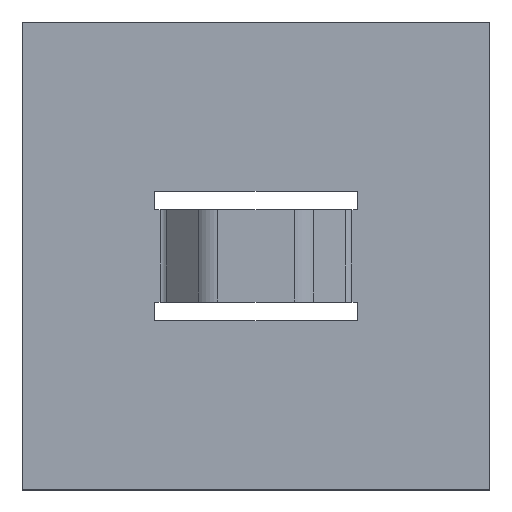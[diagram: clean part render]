
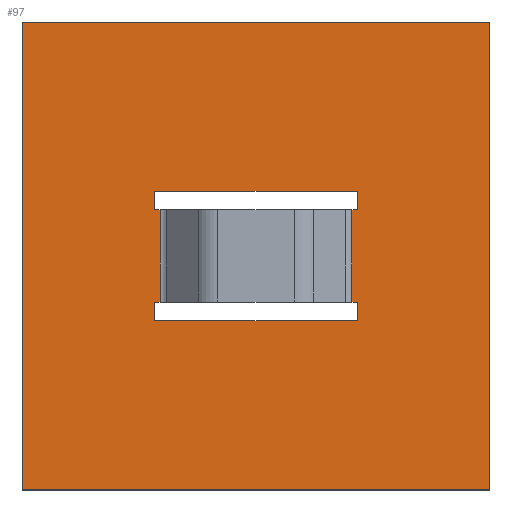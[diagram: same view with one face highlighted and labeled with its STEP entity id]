
A CAD part, top view. The second image highlights one B-rep face of the part: STEP entity #97.
In plain terms, the highlighted planar face has unit normal (0, 0, 1).
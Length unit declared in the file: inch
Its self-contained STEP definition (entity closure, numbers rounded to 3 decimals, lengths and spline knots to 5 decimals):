
#97=ADVANCED_FACE('',(#148,#149),#150,.T.);
#148=FACE_OUTER_BOUND('',#206,.T.);
#149=FACE_BOUND('',#207,.T.);
#150=PLANE('',#208);
#206=EDGE_LOOP('',(#406,#407,#408,#409));
#207=EDGE_LOOP('',(#410,#411,#412,#413,#414,#415,#416,#417,#418,#419,#420,#421));
#208=AXIS2_PLACEMENT_3D('',#422,#423,#424);
#406=ORIENTED_EDGE('',*,*,#546,.F.);
#407=ORIENTED_EDGE('',*,*,#547,.T.);
#408=ORIENTED_EDGE('',*,*,#548,.T.);
#409=ORIENTED_EDGE('',*,*,#483,.F.);
#410=ORIENTED_EDGE('',*,*,#536,.T.);
#411=ORIENTED_EDGE('',*,*,#476,.T.);
#412=ORIENTED_EDGE('',*,*,#475,.F.);
#413=ORIENTED_EDGE('',*,*,#480,.T.);
#414=ORIENTED_EDGE('',*,*,#537,.T.);
#415=ORIENTED_EDGE('',*,*,#530,.T.);
#416=ORIENTED_EDGE('',*,*,#497,.T.);
#417=ORIENTED_EDGE('',*,*,#549,.F.);
#418=ORIENTED_EDGE('',*,*,#541,.T.);
#419=ORIENTED_EDGE('',*,*,#545,.F.);
#420=ORIENTED_EDGE('',*,*,#505,.T.);
#421=ORIENTED_EDGE('',*,*,#519,.F.);
#422=CARTESIAN_POINT('',(0.0,0.622,-0.122));
#423=DIRECTION('',(0.0,0.0,1.0));
#424=DIRECTION('',(1.0,0.0,0.0));
#475=EDGE_CURVE('',#561,#557,#563,.T.);
#476=EDGE_CURVE('',#564,#557,#565,.F.);
#480=EDGE_CURVE('',#561,#569,#572,.F.);
#483=EDGE_CURVE('',#574,#577,#578,.T.);
#497=EDGE_CURVE('',#605,#603,#606,.T.);
#505=EDGE_CURVE('',#583,#619,#621,.T.);
#519=EDGE_CURVE('',#641,#619,#643,.T.);
#530=EDGE_CURVE('',#659,#605,#660,.T.);
#536=EDGE_CURVE('',#641,#564,#668,.T.);
#537=EDGE_CURVE('',#569,#659,#669,.T.);
#541=EDGE_CURVE('',#675,#673,#676,.T.);
#545=EDGE_CURVE('',#583,#673,#681,.T.);
#546=EDGE_CURVE('',#682,#574,#683,.T.);
#547=EDGE_CURVE('',#682,#684,#685,.T.);
#548=EDGE_CURVE('',#684,#577,#686,.T.);
#549=EDGE_CURVE('',#675,#603,#687,.T.);
#557=VERTEX_POINT('',#697);
#561=VERTEX_POINT('',#703);
#563=LINE('',#706,#707);
#564=VERTEX_POINT('',#708);
#565=LINE('',#709,#710);
#569=VERTEX_POINT('',#716);
#572=LINE('',#720,#721);
#574=VERTEX_POINT('',#724);
#577=VERTEX_POINT('',#728);
#578=LINE('',#729,#730);
#583=VERTEX_POINT('',#737);
#603=VERTEX_POINT('',#763);
#605=VERTEX_POINT('',#766);
#606=LINE('',#767,#768);
#619=VERTEX_POINT('',#784);
#621=LINE('',#786,#787);
#641=VERTEX_POINT('',#816);
#643=LINE('',#818,#819);
#659=VERTEX_POINT('',#843);
#660=LINE('',#844,#845);
#668=LINE('',#856,#857);
#669=LINE('',#858,#859);
#673=VERTEX_POINT('',#865);
#675=VERTEX_POINT('',#868);
#676=LINE('',#869,#870);
#681=LINE('',#878,#879);
#682=VERTEX_POINT('',#880);
#683=LINE('',#881,#882);
#684=VERTEX_POINT('',#883);
#685=LINE('',#884,#885);
#686=LINE('',#886,#887);
#687=LINE('',#888,#889);
#697=CARTESIAN_POINT('',(0.43307,-0.352,-0.122));
#703=CARTESIAN_POINT('',(-0.43307,-0.352,-0.122));
#706=CARTESIAN_POINT('',(0.0,-0.352,-0.122));
#707=VECTOR('',#907,1.0);
#708=CARTESIAN_POINT('',(0.43307,-0.272,-0.122));
#709=CARTESIAN_POINT('',(0.43307,0.175,-0.122));
#710=VECTOR('',#908,1.0);
#716=CARTESIAN_POINT('',(-0.43307,-0.272,-0.122));
#720=CARTESIAN_POINT('',(-0.43307,0.175,-0.122));
#721=VECTOR('',#912,1.0);
#724=CARTESIAN_POINT('',(1.0,-1.075,-0.122));
#728=CARTESIAN_POINT('',(-1.0,-1.075,-0.122));
#729=CARTESIAN_POINT('',(0.0,-1.075,-0.122));
#730=VECTOR('',#915,1.0);
#737=CARTESIAN_POINT('',(0.43307,0.122,-0.122));
#763=CARTESIAN_POINT('',(-0.43307,0.122,-0.122));
#766=CARTESIAN_POINT('',(-0.41007,0.122,-0.122));
#767=CARTESIAN_POINT('',(-1.0,0.122,-0.122));
#768=VECTOR('',#937,1.0);
#784=CARTESIAN_POINT('',(0.41007,0.122,-0.122));
#786=CARTESIAN_POINT('',(0.41007,0.122,-0.122));
#787=VECTOR('',#953,1.0);
#816=CARTESIAN_POINT('',(0.41007,-0.272,-0.122));
#818=CARTESIAN_POINT('',(0.41007,-0.272,-0.122));
#819=VECTOR('',#975,1.0);
#843=CARTESIAN_POINT('',(-0.41007,-0.272,-0.122));
#844=CARTESIAN_POINT('',(-0.41007,-0.272,-0.122));
#845=VECTOR('',#990,1.0);
#856=CARTESIAN_POINT('',(0.41007,-0.272,-0.122));
#857=VECTOR('',#1000,1.0);
#858=CARTESIAN_POINT('',(-1.0,-0.272,-0.122));
#859=VECTOR('',#1001,1.0);
#865=CARTESIAN_POINT('',(0.43307,0.202,-0.122));
#868=CARTESIAN_POINT('',(-0.43307,0.202,-0.122));
#869=CARTESIAN_POINT('',(0.0,0.202,-0.122));
#870=VECTOR('',#1005,1.0);
#878=CARTESIAN_POINT('',(0.43307,0.372,-0.122));
#879=VECTOR('',#1009,1.0);
#880=CARTESIAN_POINT('',(1.0,0.925,-0.122));
#881=CARTESIAN_POINT('',(1.0,-0.772,-0.122));
#882=VECTOR('',#1010,1.0);
#883=CARTESIAN_POINT('',(-1.0,0.925,-0.122));
#884=CARTESIAN_POINT('',(0.0,0.925,-0.122));
#885=VECTOR('',#1011,1.0);
#886=CARTESIAN_POINT('',(-1.0,0.622,-0.122));
#887=VECTOR('',#1012,1.0);
#888=CARTESIAN_POINT('',(-0.43307,0.372,-0.122));
#889=VECTOR('',#1013,1.0);
#907=DIRECTION('',(1.0,0.0,0.0));
#908=DIRECTION('',(0.0,1.0,0.0));
#912=DIRECTION('',(0.0,-1.0,0.0));
#915=DIRECTION('',(-1.0,0.0,0.0));
#937=DIRECTION('',(-1.0,0.0,0.0));
#953=DIRECTION('',(-1.0,0.0,0.0));
#975=DIRECTION('',(0.0,1.0,0.));
#990=DIRECTION('',(0.0,1.0,0.));
#1000=DIRECTION('',(1.0,0.0,0.0));
#1001=DIRECTION('',(1.0,0.0,0.0));
#1005=DIRECTION('',(1.0,0.0,0.0));
#1009=DIRECTION('',(0.0,1.0,0.0));
#1010=DIRECTION('',(0.0,-1.0,0.0));
#1011=DIRECTION('',(-1.0,0.0,0.0));
#1012=DIRECTION('',(0.0,-1.0,0.0));
#1013=DIRECTION('',(0.0,-1.0,0.0));
